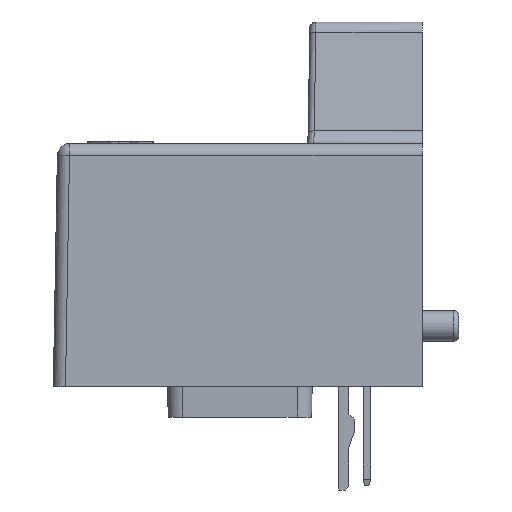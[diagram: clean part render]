
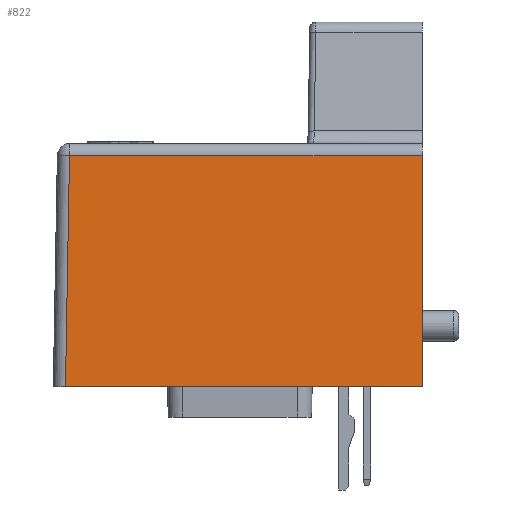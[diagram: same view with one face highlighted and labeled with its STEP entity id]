
A CAD part, left-side view. The second image highlights one B-rep face of the part: STEP entity #822.
In plain terms, the highlighted planar face has unit normal (-1, 0, 0.018).
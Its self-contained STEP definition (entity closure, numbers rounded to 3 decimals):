
#822=ADVANCED_FACE('',(#1371),#1143,.T.);
#1143=PLANE('',#6348);
#1371=FACE_OUTER_BOUND('',#1689,.T.);
#1689=EDGE_LOOP('',(#2112,#2113,#2114,#2115));
#2112=ORIENTED_EDGE('',*,*,#4337,.T.);
#2113=ORIENTED_EDGE('',*,*,#4284,.T.);
#2114=ORIENTED_EDGE('',*,*,#4303,.F.);
#2115=ORIENTED_EDGE('',*,*,#4338,.F.);
#3732=VERTEX_POINT('',#8183);
#3733=VERTEX_POINT('',#8185);
#3745=VERTEX_POINT('',#8220);
#3778=VERTEX_POINT('',#8288);
#4284=EDGE_CURVE('',#3733,#3732,#5126,.T.);
#4303=EDGE_CURVE('',#3745,#3732,#5144,.T.);
#4337=EDGE_CURVE('',#3778,#3733,#5164,.T.);
#4338=EDGE_CURVE('',#3778,#3745,#5165,.T.);
#5126=LINE('',#8184,#5721);
#5144=LINE('',#8219,#5739);
#5164=LINE('',#8287,#5759);
#5165=LINE('',#8289,#5760);
#5721=VECTOR('',#6755,1.);
#5739=VECTOR('',#6783,1.);
#5759=VECTOR('',#6833,1.);
#5760=VECTOR('',#6834,1.);
#6348=AXIS2_PLACEMENT_3D('',#8290,#6835,#6836);
#6755=DIRECTION('',(0.,-1.,0.));
#6783=DIRECTION('',(-0.017,0.,-1.));
#6833=DIRECTION('',(-0.017,0.017,-1.));
#6834=DIRECTION('',(0.,-1.,0.));
#6835=DIRECTION('',(-1.,0.,0.017));
#6836=DIRECTION('',(-0.017,0.,-1.));
#8183=CARTESIAN_POINT('',(44.501,-22.85,-13.75));
#8184=CARTESIAN_POINT('',(44.501,-8.35,-13.75));
#8185=CARTESIAN_POINT('',(44.501,6.499,-13.75));
#8219=CARTESIAN_POINT('',(44.85,-22.85,6.25));
#8220=CARTESIAN_POINT('',(44.833,-22.85,5.267));
#8287=CARTESIAN_POINT('',(44.854,6.146,6.503));
#8288=CARTESIAN_POINT('',(44.833,6.167,5.267));
#8289=CARTESIAN_POINT('',(44.833,-8.35,5.267));
#8290=CARTESIAN_POINT('',(44.85,-8.35,6.25));
